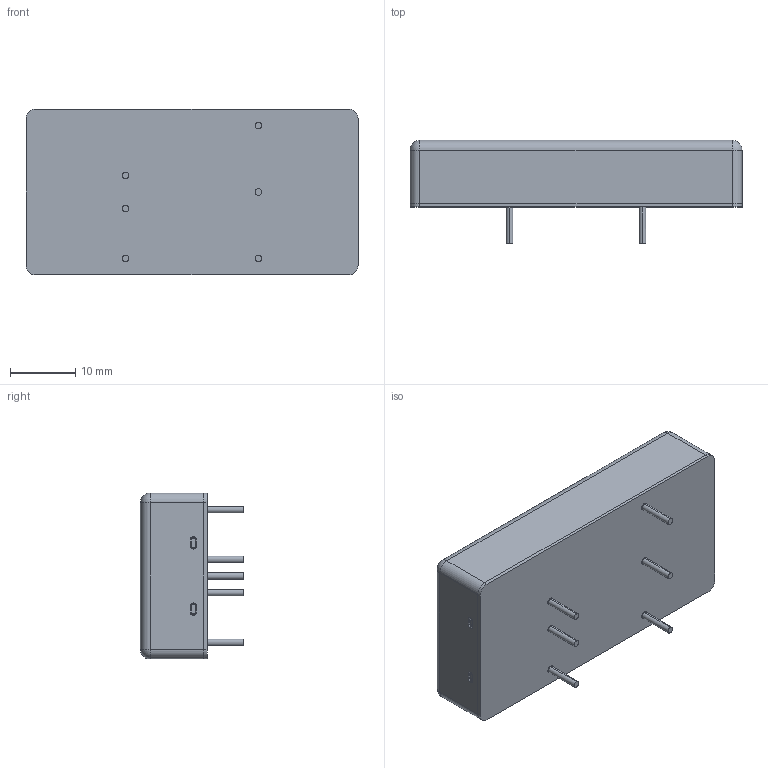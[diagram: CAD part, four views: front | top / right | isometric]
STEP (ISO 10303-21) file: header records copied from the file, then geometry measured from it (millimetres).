
FILE_DESCRIPTION (( 'STEP AP203' ), '1' );
FILE_NAME ('EC7BW-1121026.STEP', '2023-10-26T06:19:45', ( 'cincon' ), ( '' ), 'SwSTEP 2.0', 'SolidWorks 2020', '' );
FILE_SCHEMA (( 'CONFIG_CONTROL_DESIGN' ));
Length unit declared in the file: millimetre
Products named in the file (1): EC7BW-1121026
Bounding box: 50.8 x 15.8 x 25.4 mm (x, y, z)
Volume: 2030.3 mm3; surface area: 8796.8 mm2
Topology: 1 solids, 1 shells, 176 faces, 429 edges, 262 vertices
Faces by surface type: plane 80, cylinder 64, torus 12, cone 10, sphere 8, bspline 2
Entity records: 5388 total; most frequent: CARTESIAN_POINT 1070, DIRECTION 953, ORIENTED_EDGE 842, EDGE_CURVE 421, AXIS2_PLACEMENT_3D 365, VERTEX_POINT 262, LINE 223, VECTOR 223
